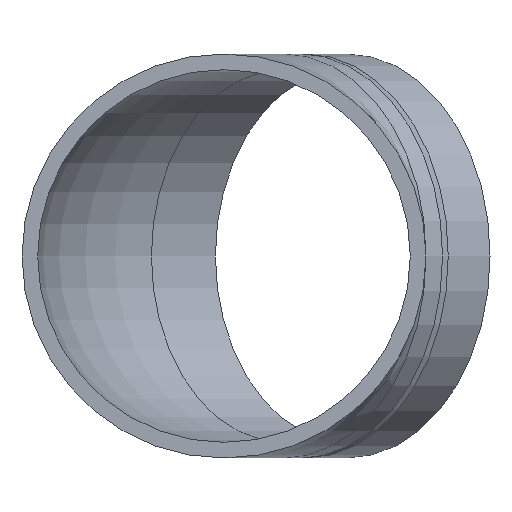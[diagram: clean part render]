
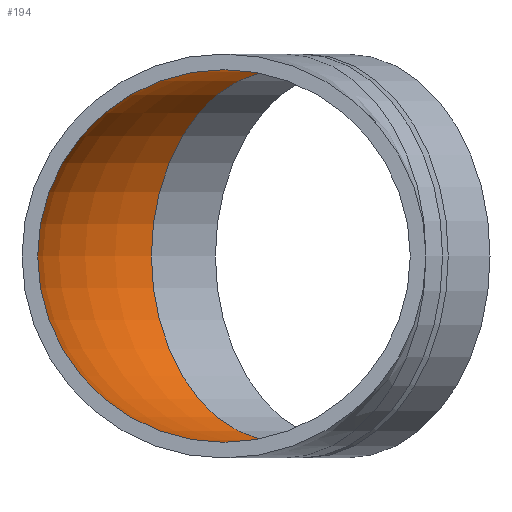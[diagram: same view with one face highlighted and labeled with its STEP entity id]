
A CAD part, front view. The second image highlights one B-rep face of the part: STEP entity #194.
In plain terms, the highlighted toroidal (fillet/blend) face has major radius 80 mm and minor radius 73.8 mm.
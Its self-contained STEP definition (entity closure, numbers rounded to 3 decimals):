
#13=TOROIDAL_SURFACE($,#222,80.,73.8);
#30=FACE_BOUND($,#71,.T.);
#49=FACE_OUTER_BOUND($,#70,.T.);
#70=EDGE_LOOP($,(#147));
#71=EDGE_LOOP($,(#148));
#92=CIRCLE($,#218,73.8);
#93=CIRCLE($,#220,73.8);
#108=VERTEX_POINT($,#360);
#109=VERTEX_POINT($,#363);
#123=EDGE_CURVE($,#108,#108,#92,.T.);
#124=EDGE_CURVE($,#109,#109,#93,.T.);
#147=ORIENTED_EDGE($,*,*,#123,.T.);
#148=ORIENTED_EDGE($,*,*,#124,.F.);
#194=ADVANCED_FACE($,(#49,#30),#13,.F.);
#218=AXIS2_PLACEMENT_3D($,#361,#263,#264);
#220=AXIS2_PLACEMENT_3D($,#364,#267,#268);
#222=AXIS2_PLACEMENT_3D($,#367,#271,#272);
#263=DIRECTION('center_axis',(0.,-1.,0.));
#264=DIRECTION('ref_axis',(1.,0.,0.));
#267=DIRECTION('center_axis',(-0.707,-0.707,0.));
#268=DIRECTION('ref_axis',(0.707,-0.707,0.));
#271=DIRECTION('center_axis',(0.,0.,-1.));
#272=DIRECTION('ref_axis',(-1.,0.,0.));
#360=CARTESIAN_POINT('',(-73.8,35.863,0.));
#361=CARTESIAN_POINT('Origin',(0.,35.863,0.));
#363=CARTESIAN_POINT('',(-28.753,144.616,0.));
#364=CARTESIAN_POINT('Origin',(23.431,92.431,0.));
#367=CARTESIAN_POINT('Origin',(80.,35.863,0.));
